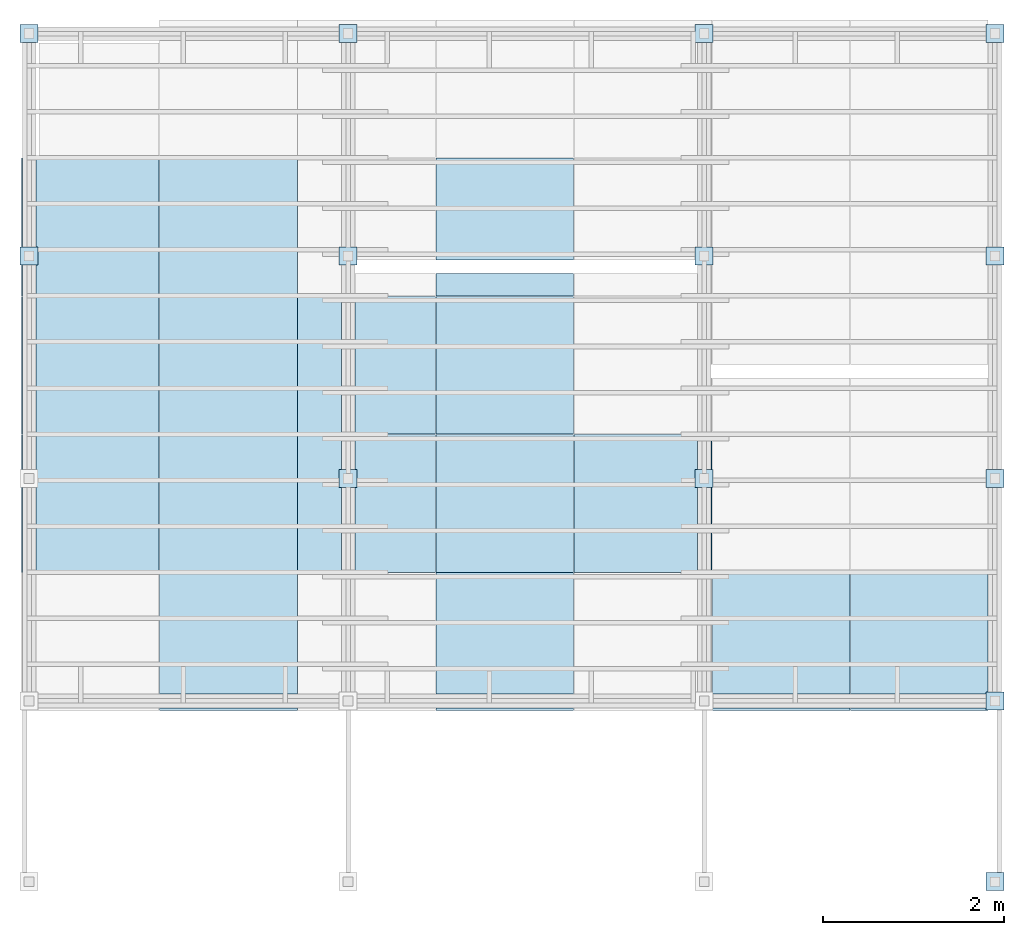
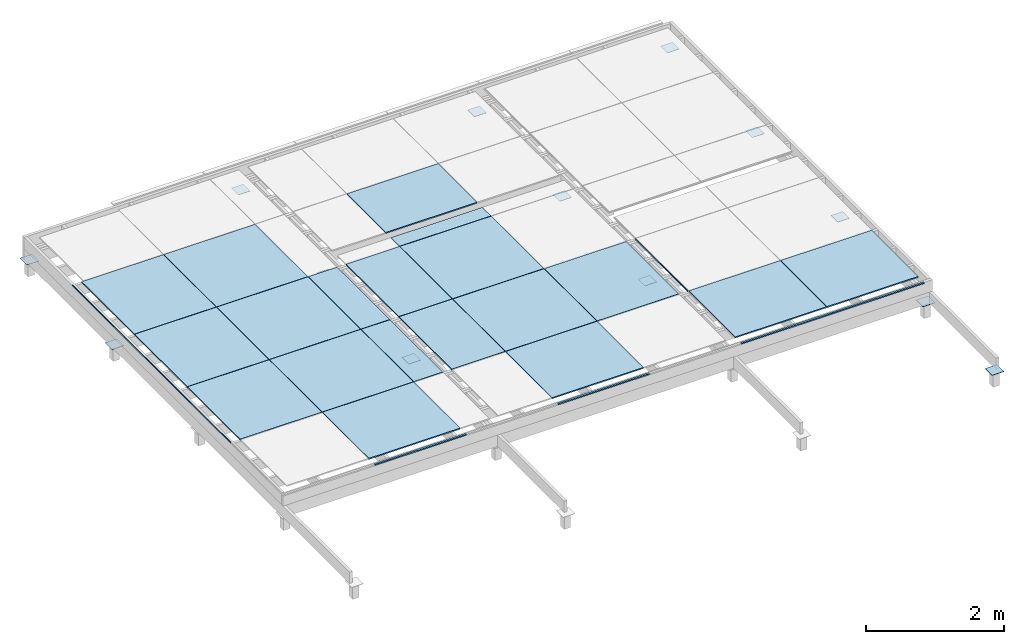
# One storey, part 3 of 5: 29 slabs, 13 elements without a shape of their own.
"""IFC4 building model written with IfcOpenShell, lengths in millimetres."""

from ifc_helpers import new_model, si_unit, derived_unit, frame, origin_with_axes, place, context, subcontext, project, spatial, polygons, source, transform, mapped, material, constituent, constituent_set, element, aggregate, save


model = new_model("IFC4")

# Units and contexts
model_context = context("Model", 3, precision=1e-06, world=origin_with_axes())
body_context = subcontext(model_context, "Body", "Model", "MODEL_VIEW")
ifc_project = project(units=[si_unit("LENGTHUNIT", "METRE", prefix="MILLI"), si_unit("AREAUNIT", "SQUARE_METRE"), si_unit("VOLUMEUNIT", "CUBIC_METRE"), si_unit("MASSUNIT", "GRAM", prefix="KILO"), si_unit("ELECTRICVOLTAGEUNIT", "VOLT", prefix="KILO"), si_unit("THERMODYNAMICTEMPERATUREUNIT", "DEGREE_CELSIUS"), si_unit("PRESSUREUNIT", "PASCAL", prefix="MEGA"), si_unit("PLANEANGLEUNIT", "RADIAN"), derived_unit("THERMALCONDUCTANCEUNIT", [(si_unit("POWERUNIT", "WATT"), 1), (si_unit("LENGTHUNIT", "METRE"), -1), (si_unit("THERMODYNAMICTEMPERATUREUNIT", "KELVIN"), -1)]), derived_unit("MASSDENSITYUNIT", [(si_unit("MASSUNIT", "GRAM", prefix="KILO"), 1), (si_unit("VOLUMEUNIT", "CUBIC_METRE"), -1)])], contexts=[model_context])

# Site, building, storey
site_placement = place(None, origin_with_axes())
site = spatial("IfcSite", under=ifc_project, at=site_placement, CompositionType="ELEMENT")
building_placement = place(site_placement, origin_with_axes())
building = spatial("IfcBuilding", under=site, at=building_placement, CompositionType="ELEMENT")
storey_placement = place(building_placement, origin_with_axes())
storey = spatial("IfcBuildingStorey", under=building, at=storey_placement, Name="Ниже 0.00", CompositionType="ELEMENT", Elevation=0.0)

# Slabs
ifc_material_1 = material(Name="фанера)")
ifc_constituent_1 = constituent(ifc_material_1, Name="Слой 1 - фанера): 21,00 мм")
ifc_constituent_set_1 = constituent_set(constituents=[ifc_constituent_1], Name="Фанера")
shared_shape_1 = source(origin_with_axes(), body_context, "Body", "Tessellation", [
    polygons([(10695.000000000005, 149.99999999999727, 0.0), (9170.000000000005, 149.99999999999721, 0.0), (9170.000000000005, 1494.9999999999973, 0.0), (10695.000000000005, 1494.9999999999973, 0.0), (10695.000000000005, 149.99999999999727, 21.0), (9170.000000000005, 149.99999999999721, 21.0), (9170.000000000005, 1494.9999999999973, 21.0), (10695.000000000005, 1494.9999999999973, 21.0)], [[[1, 2, 3, 4]], [[1, 5, 6, 2]], [[2, 6, 7, 3]], [[4, 3, 7, 8]], [[5, 1, 4, 8]], [[6, 5, 8, 7]]], closed=True),
    polygons([(9170.000000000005, -2.791e-12, 0.0), (10695.000000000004, -2.728e-12, 0.0), (10695.000000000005, -30.000000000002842, 0.0), (9170.000000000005, -30.000000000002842, 0.0), (10695.000000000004, -2.728e-12, 21.0), (9170.000000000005, -2.791e-12, 21.0), (10695.000000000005, -30.000000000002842, 21.0), (9170.000000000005, -30.000000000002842, 21.0)], [[[1, 2, 3, 4]], [[5, 2, 1, 6]], [[2, 5, 7, 3]], [[4, 3, 7, 8]], [[6, 1, 4, 8]], [[5, 6, 8, 7]]], closed=True),
])
slab_1_placement = place(storey_placement, frame((9170.000000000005, -30.000000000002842, 0.0), z_axis=(0.0, 0.0, 1.0), x_axis=(1.0, 0.0, 0.0)))
element("IfcSlab", 1, at=slab_1_placement, inside=storey, material=ifc_constituent_set_1, Name="Перекрытие: 21,00 мм", PredefinedType="FLOOR", context=body_context, shape_type="MappedRepresentation", body=[
    mapped(shared_shape_1, transform((-9170.000000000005, 30.000000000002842, 0.0), x_axis=(1.0, 0.0, 0.0), y_axis=(0.0, 1.0, 0.0), z_axis=(0.0, 0.0, 1.0), scale=1.0)),
])
shared_shape_2 = source(origin_with_axes(), body_context, "Body", "Tessellation", [
    polygons([(9165.000000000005, 149.99999999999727, 0.0), (7640.0000000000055, 149.99999999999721, 0.0), (7640.0000000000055, 1494.9999999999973, 0.0), (9165.000000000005, 1494.9999999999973, 0.0), (9165.000000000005, 149.99999999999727, 21.0), (7640.0000000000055, 149.99999999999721, 21.0), (7640.0000000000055, 1494.9999999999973, 21.0), (9165.000000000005, 1494.9999999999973, 21.0)], [[[1, 2, 3, 4]], [[1, 5, 6, 2]], [[2, 6, 7, 3]], [[4, 3, 7, 8]], [[5, 1, 4, 8]], [[6, 5, 8, 7]]], closed=True),
    polygons([(7640.0000000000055, -2.791e-12, 0.0), (9165.000000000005, -2.728e-12, 0.0), (9165.000000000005, -30.000000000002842, 0.0), (7640.0000000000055, -30.000000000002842, 0.0), (9165.000000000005, -2.728e-12, 21.0), (7640.0000000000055, -2.791e-12, 21.0), (9165.000000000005, -30.000000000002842, 21.0), (7640.0000000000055, -30.000000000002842, 21.0)], [[[1, 2, 3, 4]], [[5, 2, 1, 6]], [[2, 5, 7, 3]], [[4, 3, 7, 8]], [[6, 1, 4, 8]], [[5, 6, 8, 7]]], closed=True),
])
slab_2_placement = place(storey_placement, frame((7640.0000000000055, -30.000000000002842, 0.0), z_axis=(0.0, 0.0, 1.0), x_axis=(1.0, 0.0, 0.0)))
element("IfcSlab", 2, at=slab_2_placement, inside=storey, material=ifc_constituent_set_1, Name="Перекрытие: 21,00 мм", PredefinedType="FLOOR", context=body_context, shape_type="MappedRepresentation", body=[
    mapped(shared_shape_2, transform((-7640.0000000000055, 30.000000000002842, 0.0), x_axis=(1.0, 0.0, 0.0), y_axis=(0.0, 1.0, 0.0), z_axis=(0.0, 0.0, 1.0), scale=1.0)),
])
shared_shape_3 = source(origin_with_axes(), body_context, "Body", "Tessellation", [
    polygons([(7475.0, 3024.9999999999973, 0.0), (7475.0, 1499.9999999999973, 0.0), (6110.0000000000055, 1499.9999999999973, 0.0), (6110.0000000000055, 3024.9999999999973, 0.0), (7475.0, 1499.9999999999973, 21.0), (7475.0, 3024.9999999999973, 21.0), (6110.0000000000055, 1499.9999999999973, 21.0), (6110.0000000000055, 3024.9999999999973, 21.0)], [[[1, 2, 3, 4]], [[5, 2, 1, 6]], [[2, 5, 7, 3]], [[4, 3, 7, 8]], [[6, 1, 4, 8]], [[5, 6, 8, 7]]], closed=True),
    polygons([(7625.0, 1499.9999999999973, 0.0), (7625.0, 3024.9999999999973, 0.0), (7635.0000000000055, 3024.9999999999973, 0.0), (7635.0000000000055, 1499.9999999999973, 0.0), (7625.0, 1499.9999999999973, 21.0), (7625.0, 3024.9999999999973, 21.0), (7635.0000000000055, 3024.9999999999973, 21.0), (7635.0000000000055, 1499.9999999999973, 21.0)], [[[1, 2, 3, 4]], [[1, 5, 6, 2]], [[2, 6, 7, 3]], [[4, 3, 7, 8]], [[5, 1, 4, 8]], [[6, 5, 8, 7]]], closed=True),
])
slab_3_placement = place(storey_placement, frame((6110.0000000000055, 1499.9999999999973, 0.0), z_axis=(0.0, 0.0, 1.0), x_axis=(1.0, 0.0, 0.0)))
element("IfcSlab", 3, at=slab_3_placement, inside=storey, material=ifc_constituent_set_1, Name="Перекрытие: 21,00 мм", PredefinedType="FLOOR", context=body_context, shape_type="MappedRepresentation", body=[
    mapped(shared_shape_3, transform((-6110.0000000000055, -1499.9999999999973, 0.0), x_axis=(1.0, 0.0, 0.0), y_axis=(0.0, 1.0, 0.0), z_axis=(0.0, 0.0, 1.0), scale=1.0)),
])
shared_shape_4 = source(origin_with_axes(), body_context, "Body", "Tessellation", [
    polygons([(6105.0000000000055, 149.99999999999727, 0.0), (4580.0000000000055, 149.99999999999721, 0.0), (4580.0000000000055, 1494.9999999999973, 0.0), (6105.0000000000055, 1494.9999999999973, 0.0), (6105.0000000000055, 149.99999999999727, 21.0), (4580.0000000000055, 149.99999999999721, 21.0), (4580.0000000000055, 1494.9999999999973, 21.0), (6105.0000000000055, 1494.9999999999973, 21.0)], [[[1, 2, 3, 4]], [[1, 5, 6, 2]], [[2, 6, 7, 3]], [[4, 3, 7, 8]], [[5, 1, 4, 8]], [[6, 5, 8, 7]]], closed=True),
    polygons([(4580.0000000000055, -2.791e-12, 0.0), (6105.0000000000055, -2.728e-12, 0.0), (6105.0000000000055, -30.000000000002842, 0.0), (4580.0000000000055, -30.000000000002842, 0.0), (6105.0000000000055, -2.728e-12, 21.0), (4580.0000000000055, -2.791e-12, 21.0), (6105.0000000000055, -30.000000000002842, 21.0), (4580.0000000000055, -30.000000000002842, 21.0)], [[[1, 2, 3, 4]], [[5, 2, 1, 6]], [[2, 5, 7, 3]], [[4, 3, 7, 8]], [[6, 1, 4, 8]], [[5, 6, 8, 7]]], closed=True),
])
slab_4_placement = place(storey_placement, frame((4580.0000000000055, -30.000000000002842, 0.0), z_axis=(0.0, 0.0, 1.0), x_axis=(1.0, 0.0, 0.0)))
element("IfcSlab", 4, at=slab_4_placement, inside=storey, material=ifc_constituent_set_1, Name="Перекрытие: 21,00 мм", PredefinedType="FLOOR", context=body_context, shape_type="MappedRepresentation", body=[
    mapped(shared_shape_4, transform((-4580.0000000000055, 30.000000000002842, 0.0), x_axis=(1.0, 0.0, 0.0), y_axis=(0.0, 1.0, 0.0), z_axis=(0.0, 0.0, 1.0), scale=1.0)),
])
shared_shape_5 = source(origin_with_axes(), body_context, "Body", "Tessellation", [
    polygons([(4580.0000000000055, 1499.9999999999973, 0.0), (4580.0000000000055, 3024.9999999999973, 0.0), (6105.0000000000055, 3024.9999999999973, 0.0), (6105.0000000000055, 1499.9999999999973, 0.0), (4580.0000000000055, 1499.9999999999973, 21.0), (4580.0000000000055, 3024.9999999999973, 21.0), (6105.0000000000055, 3024.9999999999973, 21.0), (6105.0000000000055, 1499.9999999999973, 21.0)], [[[1, 2, 3, 4]], [[2, 1, 5, 6]], [[3, 2, 6, 7]], [[4, 3, 7, 8]], [[1, 4, 8, 5]], [[5, 8, 7, 6]]], closed=True),
])
slab_5_placement = place(storey_placement, frame((4580.0000000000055, 1499.9999999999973, 0.0), z_axis=(0.0, 0.0, 1.0), x_axis=(1.0, 0.0, 0.0)))
element("IfcSlab", 5, at=slab_5_placement, inside=storey, material=ifc_constituent_set_1, Name="Перекрытие: 21,00 мм", PredefinedType="FLOOR", context=body_context, shape_type="MappedRepresentation", body=[
    mapped(shared_shape_5, transform((-4580.0000000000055, -1499.9999999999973, 0.0), x_axis=(1.0, 0.0, 0.0), y_axis=(0.0, 1.0, 0.0), z_axis=(0.0, 0.0, 1.0), scale=1.0)),
])
shared_shape_6 = source(origin_with_axes(), body_context, "Body", "Tessellation", [
    polygons([(4580.0000000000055, 3029.9999999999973, 0.0), (4580.0000000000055, 4554.999999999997, 0.0), (6105.0000000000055, 4554.999999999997, 0.0), (6105.0000000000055, 3029.9999999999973, 0.0), (4580.0000000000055, 3029.9999999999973, 21.0), (4580.0000000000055, 4554.999999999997, 21.0), (6105.0000000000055, 4554.999999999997, 21.0), (6105.0000000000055, 3029.9999999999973, 21.0)], [[[1, 2, 3, 4]], [[2, 1, 5, 6]], [[3, 2, 6, 7]], [[4, 3, 7, 8]], [[1, 4, 8, 5]], [[5, 8, 7, 6]]], closed=True),
])
slab_6_placement = place(storey_placement, frame((4580.0000000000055, 3029.9999999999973, 0.0), z_axis=(0.0, 0.0, 1.0), x_axis=(1.0, 0.0, 0.0)))
element("IfcSlab", 6, at=slab_6_placement, inside=storey, material=ifc_constituent_set_1, Name="Перекрытие: 21,00 мм", PredefinedType="FLOOR", context=body_context, shape_type="MappedRepresentation", body=[
    mapped(shared_shape_6, transform((-4580.0000000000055, -3029.9999999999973, 0.0), x_axis=(1.0, 0.0, 0.0), y_axis=(0.0, 1.0, 0.0), z_axis=(0.0, 0.0, 1.0), scale=1.0)),
])
shared_shape_7 = source(origin_with_axes(), body_context, "Body", "Tessellation", [
    polygons([(6105.0000000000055, 4959.999999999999, 0.0), (4580.0000000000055, 4959.999999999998, 0.0), (4580.0000000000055, 6084.999999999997, 0.0), (6105.0000000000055, 6084.999999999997, 0.0), (6105.0000000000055, 4959.999999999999, 21.0), (4580.0000000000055, 4959.999999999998, 21.0), (4580.0000000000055, 6084.999999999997, 21.0), (6105.0000000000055, 6084.999999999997, 21.0)], [[[1, 2, 3, 4]], [[1, 5, 6, 2]], [[2, 6, 7, 3]], [[4, 3, 7, 8]], [[5, 1, 4, 8]], [[6, 5, 8, 7]]], closed=True),
    polygons([(4580.0000000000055, 4809.999999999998, 0.0), (6105.0000000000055, 4809.999999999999, 0.0), (6105.0000000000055, 4559.999999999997, 0.0), (4580.0000000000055, 4559.999999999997, 0.0), (6105.0000000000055, 4809.999999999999, 21.0), (4580.0000000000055, 4809.999999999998, 21.0), (6105.0000000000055, 4559.999999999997, 21.0), (4580.0000000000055, 4559.999999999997, 21.0)], [[[1, 2, 3, 4]], [[5, 2, 1, 6]], [[2, 5, 7, 3]], [[4, 3, 7, 8]], [[6, 1, 4, 8]], [[5, 6, 8, 7]]], closed=True),
])
slab_7_placement = place(storey_placement, frame((4580.0000000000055, 4559.999999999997, 0.0), z_axis=(0.0, 0.0, 1.0), x_axis=(1.0, 0.0, 0.0)))
element("IfcSlab", 7, at=slab_7_placement, inside=storey, material=ifc_constituent_set_1, Name="Перекрытие: 21,00 мм", PredefinedType="FLOOR", context=body_context, shape_type="MappedRepresentation", body=[
    mapped(shared_shape_7, transform((-4580.0000000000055, -4559.999999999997, 0.0), x_axis=(1.0, 0.0, 0.0), y_axis=(0.0, 1.0, 0.0), z_axis=(0.0, 0.0, 1.0), scale=1.0)),
])
shared_shape_8 = source(origin_with_axes(), body_context, "Body", "Tessellation", [
    polygons([(3682.5, 1499.9999999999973, 0.0), (3682.5, 3024.9999999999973, 0.0), (4575.0000000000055, 3024.9999999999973, 0.0), (4575.0000000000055, 1499.9999999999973, 0.0), (3682.5, 1499.9999999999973, 21.0), (3682.5, 3024.9999999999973, 21.0), (4575.0000000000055, 3024.9999999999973, 21.0), (4575.0000000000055, 1499.9999999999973, 21.0)], [[[1, 2, 3, 4]], [[1, 5, 6, 2]], [[2, 6, 7, 3]], [[4, 3, 7, 8]], [[5, 1, 4, 8]], [[6, 5, 8, 7]]], closed=True),
    polygons([(3532.5, 3024.9999999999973, 0.0), (3532.5, 1499.9999999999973, 0.0), (3050.0000000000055, 1499.9999999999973, 0.0), (3050.0000000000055, 3024.9999999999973, 0.0), (3532.5, 1499.9999999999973, 21.0), (3532.5, 3024.9999999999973, 21.0), (3050.0000000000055, 1499.9999999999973, 21.0), (3050.0000000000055, 3024.9999999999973, 21.0)], [[[1, 2, 3, 4]], [[5, 2, 1, 6]], [[2, 5, 7, 3]], [[4, 3, 7, 8]], [[6, 1, 4, 8]], [[5, 6, 8, 7]]], closed=True),
])
slab_8_placement = place(storey_placement, frame((3050.0000000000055, 1499.9999999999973, 0.0), z_axis=(0.0, 0.0, 1.0), x_axis=(1.0, 0.0, 0.0)))
element("IfcSlab", 8, at=slab_8_placement, inside=storey, material=ifc_constituent_set_1, Name="Перекрытие: 21,00 мм", PredefinedType="FLOOR", context=body_context, shape_type="MappedRepresentation", body=[
    mapped(shared_shape_8, transform((-3050.0000000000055, -1499.9999999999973, 0.0), x_axis=(1.0, 0.0, 0.0), y_axis=(0.0, 1.0, 0.0), z_axis=(0.0, 0.0, 1.0), scale=1.0)),
])
shared_shape_9 = source(origin_with_axes(), body_context, "Body", "Tessellation", [
    polygons([(3682.5, 3029.9999999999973, 0.0), (3682.5, 4554.999999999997, 0.0), (4575.0000000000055, 4554.999999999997, 0.0), (4575.0000000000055, 3029.9999999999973, 0.0), (3682.5, 3029.9999999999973, 21.0), (3682.5, 4554.999999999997, 21.0), (4575.0000000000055, 4554.999999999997, 21.0), (4575.0000000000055, 3029.9999999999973, 21.0)], [[[1, 2, 3, 4]], [[1, 5, 6, 2]], [[2, 6, 7, 3]], [[4, 3, 7, 8]], [[5, 1, 4, 8]], [[6, 5, 8, 7]]], closed=True),
    polygons([(3532.5, 4554.999999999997, 0.0), (3532.5, 3029.9999999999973, 0.0), (3050.0000000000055, 3029.9999999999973, 0.0), (3050.0000000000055, 4554.999999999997, 0.0), (3532.5, 3029.9999999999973, 21.0), (3532.5, 4554.999999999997, 21.0), (3050.0000000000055, 3029.9999999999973, 21.0), (3050.0000000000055, 4554.999999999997, 21.0)], [[[1, 2, 3, 4]], [[5, 2, 1, 6]], [[2, 5, 7, 3]], [[4, 3, 7, 8]], [[6, 1, 4, 8]], [[5, 6, 8, 7]]], closed=True),
])
slab_9_placement = place(storey_placement, frame((3050.0000000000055, 3029.9999999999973, 0.0), z_axis=(0.0, 0.0, 1.0), x_axis=(1.0, 0.0, 0.0)))
element("IfcSlab", 9, at=slab_9_placement, inside=storey, material=ifc_constituent_set_1, Name="Перекрытие: 21,00 мм", PredefinedType="FLOOR", context=body_context, shape_type="MappedRepresentation", body=[
    mapped(shared_shape_9, transform((-3050.0000000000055, -3029.9999999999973, 0.0), x_axis=(1.0, 0.0, 0.0), y_axis=(0.0, 1.0, 0.0), z_axis=(0.0, 0.0, 1.0), scale=1.0)),
])
shared_shape_10 = source(origin_with_axes(), body_context, "Body", "Tessellation", [
    polygons([(3045.0000000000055, 150.0, 0.0), (1520.0000000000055, 150.0000000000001, 0.0), (1520.0000000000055, 1494.9999999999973, 0.0), (3045.0000000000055, 1494.9999999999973, 0.0), (3045.0000000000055, 150.0, 21.0), (1520.0000000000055, 149.9999999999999, 21.0), (1520.0000000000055, 1494.9999999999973, 21.0), (3045.0000000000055, 1494.9999999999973, 21.0)], [[[1, 2, 3, 4]], [[1, 5, 6, 2]], [[2, 6, 7, 3]], [[4, 3, 7, 8]], [[5, 1, 4, 8]], [[6, 5, 8, 7]]], closed=True),
    polygons([(1520.0000000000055, -8.2e-14, 0.0), (3045.0000000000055, 7e-15, 0.0), (3045.0000000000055, -30.000000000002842, 0.0), (1520.0000000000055, -30.000000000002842, 0.0), (3045.0000000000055, 4e-15, 21.0), (1520.0000000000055, 1.17e-13, 21.0), (3045.0000000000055, -30.000000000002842, 21.0), (1520.0000000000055, -30.000000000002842, 21.0)], [[[1, 2, 3, 4]], [[5, 2, 1, 6]], [[2, 5, 7, 3]], [[4, 3, 7, 8]], [[6, 1, 4, 8]], [[5, 6, 8, 7]]], closed=True),
])
slab_10_placement = place(storey_placement, frame((1520.0000000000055, -30.000000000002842, 0.0), z_axis=(0.0, 0.0, 1.0), x_axis=(1.0, 0.0, 0.0)))
element("IfcSlab", 10, at=slab_10_placement, inside=storey, material=ifc_constituent_set_1, Name="Перекрытие: 21,00 мм", PredefinedType="FLOOR", context=body_context, shape_type="MappedRepresentation", body=[
    mapped(shared_shape_10, transform((-1520.0000000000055, 30.000000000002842, 0.0), x_axis=(1.0, 0.0, 0.0), y_axis=(0.0, 1.0, 0.0), z_axis=(0.0, 0.0, 1.0), scale=1.0)),
])
shared_shape_11 = source(origin_with_axes(), body_context, "Body", "Tessellation", [
    polygons([(1520.0000000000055, 1499.9999999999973, 0.0), (1520.0000000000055, 3024.9999999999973, 0.0), (3045.0000000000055, 3024.9999999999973, 0.0), (3045.0000000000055, 1499.9999999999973, 0.0), (1520.0000000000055, 1499.9999999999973, 21.0), (1520.0000000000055, 3024.9999999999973, 21.0), (3045.0000000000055, 3024.9999999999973, 21.0), (3045.0000000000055, 1499.9999999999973, 21.0)], [[[1, 2, 3, 4]], [[2, 1, 5, 6]], [[3, 2, 6, 7]], [[4, 3, 7, 8]], [[1, 4, 8, 5]], [[5, 8, 7, 6]]], closed=True),
])
slab_11_placement = place(storey_placement, frame((1520.0000000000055, 1499.9999999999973, 0.0), z_axis=(0.0, 0.0, 1.0), x_axis=(1.0, 0.0, 0.0)))
element("IfcSlab", 11, at=slab_11_placement, inside=storey, material=ifc_constituent_set_1, Name="Перекрытие: 21,00 мм", PredefinedType="FLOOR", context=body_context, shape_type="MappedRepresentation", body=[
    mapped(shared_shape_11, transform((-1520.0000000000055, -1499.9999999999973, 0.0), x_axis=(1.0, 0.0, 0.0), y_axis=(0.0, 1.0, 0.0), z_axis=(0.0, 0.0, 1.0), scale=1.0)),
])
shared_shape_12 = source(origin_with_axes(), body_context, "Body", "Tessellation", [
    polygons([(1520.0000000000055, 3029.9999999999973, 0.0), (1520.0000000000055, 4554.999999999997, 0.0), (3045.0000000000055, 4554.999999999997, 0.0), (3045.0000000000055, 3029.9999999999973, 0.0), (1520.0000000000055, 3029.9999999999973, 21.0), (1520.0000000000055, 4554.999999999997, 21.0), (3045.0000000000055, 4554.999999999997, 21.0), (3045.0000000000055, 3029.9999999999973, 21.0)], [[[1, 2, 3, 4]], [[2, 1, 5, 6]], [[3, 2, 6, 7]], [[4, 3, 7, 8]], [[1, 4, 8, 5]], [[5, 8, 7, 6]]], closed=True),
])
slab_12_placement = place(storey_placement, frame((1520.0000000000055, 3029.9999999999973, 0.0), z_axis=(0.0, 0.0, 1.0), x_axis=(1.0, 0.0, 0.0)))
element("IfcSlab", 12, at=slab_12_placement, inside=storey, material=ifc_constituent_set_1, Name="Перекрытие: 21,00 мм", PredefinedType="FLOOR", context=body_context, shape_type="MappedRepresentation", body=[
    mapped(shared_shape_12, transform((-1520.0000000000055, -3029.9999999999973, 0.0), x_axis=(1.0, 0.0, 0.0), y_axis=(0.0, 1.0, 0.0), z_axis=(0.0, 0.0, 1.0), scale=1.0)),
])
shared_shape_13 = source(origin_with_axes(), body_context, "Body", "Tessellation", [
    polygons([(1520.0000000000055, 4559.999999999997, 0.0), (1520.0000000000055, 6084.999999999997, 0.0), (3045.0000000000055, 6084.999999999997, 0.0), (3045.0000000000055, 4559.999999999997, 0.0), (1520.0000000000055, 4559.999999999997, 21.0), (1520.0000000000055, 6084.999999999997, 21.0), (3045.0000000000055, 6084.999999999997, 21.0), (3045.0000000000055, 4559.999999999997, 21.0)], [[[1, 2, 3, 4]], [[2, 1, 5, 6]], [[3, 2, 6, 7]], [[4, 3, 7, 8]], [[1, 4, 8, 5]], [[5, 8, 7, 6]]], closed=True),
])
slab_13_placement = place(storey_placement, frame((1520.0000000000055, 4559.999999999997, 0.0), z_axis=(0.0, 0.0, 1.0), x_axis=(1.0, 0.0, 0.0)))
element("IfcSlab", 13, at=slab_13_placement, inside=storey, material=ifc_constituent_set_1, Name="Перекрытие: 21,00 мм", PredefinedType="FLOOR", context=body_context, shape_type="MappedRepresentation", body=[
    mapped(shared_shape_13, transform((-1520.0000000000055, -4559.999999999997, 0.0), x_axis=(1.0, 0.0, 0.0), y_axis=(0.0, 1.0, 0.0), z_axis=(0.0, 0.0, 1.0), scale=1.0)),
])
shared_shape_14 = source(origin_with_axes(), body_context, "Body", "Tessellation", [
    polygons([(150.0, 1499.9999999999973, 0.0), (149.99999999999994, 3024.9999999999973, 0.0), (1515.0000000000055, 3024.9999999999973, 0.0), (1515.0000000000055, 1499.9999999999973, 0.0), (150.0, 1499.9999999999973, 21.0), (149.99999999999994, 3024.9999999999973, 21.0), (1515.0000000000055, 3024.9999999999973, 21.0), (1515.0000000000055, 1499.9999999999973, 21.0)], [[[1, 2, 3, 4]], [[1, 5, 6, 2]], [[2, 6, 7, 3]], [[4, 3, 7, 8]], [[5, 1, 4, 8]], [[6, 5, 8, 7]]], closed=True),
    polygons([(-4.3e-14, 3024.9999999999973, 0.0), (-1e-15, 1499.9999999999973, 0.0), (-9.999999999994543, 1499.9999999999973, 0.0), (-9.999999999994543, 3024.9999999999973, 0.0), (-1e-15, 1499.9999999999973, 21.0), (-4.3e-14, 3024.9999999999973, 21.0), (-9.999999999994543, 1499.9999999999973, 21.0), (-9.999999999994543, 3024.9999999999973, 21.0)], [[[1, 2, 3, 4]], [[5, 2, 1, 6]], [[2, 5, 7, 3]], [[4, 3, 7, 8]], [[6, 1, 4, 8]], [[5, 6, 8, 7]]], closed=True),
])
slab_14_placement = place(storey_placement, frame((-9.999999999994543, 1499.9999999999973, 0.0), z_axis=(0.0, 0.0, 1.0), x_axis=(1.0, 0.0, 0.0)))
element("IfcSlab", 14, at=slab_14_placement, inside=storey, material=ifc_constituent_set_1, Name="Перекрытие: 21,00 мм", PredefinedType="FLOOR", context=body_context, shape_type="MappedRepresentation", body=[
    mapped(shared_shape_14, transform((9.999999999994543, -1499.9999999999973, 0.0), x_axis=(1.0, 0.0, 0.0), y_axis=(0.0, 1.0, 0.0), z_axis=(0.0, 0.0, 1.0), scale=1.0)),
])
shared_shape_15 = source(origin_with_axes(), body_context, "Body", "Tessellation", [
    polygons([(150.0, 3029.9999999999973, 0.0), (149.99999999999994, 4554.999999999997, 0.0), (1515.0000000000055, 4554.999999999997, 0.0), (1515.0000000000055, 3029.9999999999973, 0.0), (150.0, 3029.9999999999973, 21.0), (149.99999999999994, 4554.999999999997, 21.0), (1515.0000000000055, 4554.999999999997, 21.0), (1515.0000000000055, 3029.9999999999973, 21.0)], [[[1, 2, 3, 4]], [[1, 5, 6, 2]], [[2, 6, 7, 3]], [[4, 3, 7, 8]], [[5, 1, 4, 8]], [[6, 5, 8, 7]]], closed=True),
    polygons([(-4.3e-14, 4554.999999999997, 0.0), (-1e-15, 3029.9999999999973, 0.0), (-9.999999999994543, 3029.9999999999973, 0.0), (-9.999999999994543, 4554.999999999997, 0.0), (-1e-15, 3029.9999999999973, 21.0), (-4.3e-14, 4554.999999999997, 21.0), (-9.999999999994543, 3029.9999999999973, 21.0), (-9.999999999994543, 4554.999999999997, 21.0)], [[[1, 2, 3, 4]], [[5, 2, 1, 6]], [[2, 5, 7, 3]], [[4, 3, 7, 8]], [[6, 1, 4, 8]], [[5, 6, 8, 7]]], closed=True),
])
slab_15_placement = place(storey_placement, frame((-9.999999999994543, 3029.9999999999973, 0.0), z_axis=(0.0, 0.0, 1.0), x_axis=(1.0, 0.0, 0.0)))
element("IfcSlab", 15, at=slab_15_placement, inside=storey, material=ifc_constituent_set_1, Name="Перекрытие: 21,00 мм", PredefinedType="FLOOR", context=body_context, shape_type="MappedRepresentation", body=[
    mapped(shared_shape_15, transform((9.999999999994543, -3029.9999999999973, 0.0), x_axis=(1.0, 0.0, 0.0), y_axis=(0.0, 1.0, 0.0), z_axis=(0.0, 0.0, 1.0), scale=1.0)),
])
shared_shape_16 = source(origin_with_axes(), body_context, "Body", "Tessellation", [
    polygons([(150.0, 4559.999999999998, 0.0), (149.99999999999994, 6084.999999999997, 0.0), (1515.0000000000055, 6084.999999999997, 0.0), (1515.0000000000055, 4559.999999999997, 0.0), (150.0, 4559.999999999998, 21.0), (149.99999999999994, 6084.999999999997, 21.0), (1515.0000000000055, 6084.999999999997, 21.0), (1515.0000000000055, 4559.999999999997, 21.0)], [[[1, 2, 3, 4]], [[1, 5, 6, 2]], [[2, 6, 7, 3]], [[4, 3, 7, 8]], [[5, 1, 4, 8]], [[6, 5, 8, 7]]], closed=True),
    polygons([(-4.3e-14, 6084.999999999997, 0.0), (-1e-15, 4559.999999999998, 0.0), (-9.999999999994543, 4559.999999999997, 0.0), (-9.999999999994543, 6084.999999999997, 0.0), (-1e-15, 4559.999999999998, 21.0), (-4.3e-14, 6084.999999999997, 21.0), (-9.999999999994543, 4559.999999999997, 21.0), (-9.999999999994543, 6084.999999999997, 21.0)], [[[1, 2, 3, 4]], [[5, 2, 1, 6]], [[2, 5, 7, 3]], [[4, 3, 7, 8]], [[6, 1, 4, 8]], [[5, 6, 8, 7]]], closed=True),
])
slab_16_placement = place(storey_placement, frame((-9.999999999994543, 4559.999999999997, 0.0), z_axis=(0.0, 0.0, 1.0), x_axis=(1.0, 0.0, 0.0)))
element("IfcSlab", 16, at=slab_16_placement, inside=storey, material=ifc_constituent_set_1, Name="Перекрытие: 21,00 мм", PredefinedType="FLOOR", context=body_context, shape_type="MappedRepresentation", body=[
    mapped(shared_shape_16, transform((9.999999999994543, -4559.999999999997, 0.0), x_axis=(1.0, 0.0, 0.0), y_axis=(0.0, 1.0, 0.0), z_axis=(0.0, 0.0, 1.0), scale=1.0)),
])

# Assembly, slab
assembly_1_placement = place(storey_placement, frame((75.00000000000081, 7465.0, -400.0), z_axis=(0.0, 0.0, 1.0), x_axis=(1.0, 0.0, 0.0)))
assembly_1 = element("IfcElementAssembly", 17, at=assembly_1_placement, inside=storey, Name="Сборка - Свая винтовая 107", PredefinedType="NOTDEFINED")
ifc_material_2 = material(Name="Сталь")
ifc_constituent_2 = constituent(ifc_material_2, Name="Слой 1 - Сталь: 5,00 мм")
ifc_constituent_set_2 = constituent_set(constituents=[ifc_constituent_2], Name="Металл")
shared_shape_17 = source(origin_with_axes(), body_context, "Body", "Tessellation", [
    polygons([(-100.0, -100.0, -5.0), (-100.0, 100.0, -5.0), (100.0, 100.0, -5.0), (100.0, -100.0, -5.0), (-100.0, -100.0, 0.0), (-100.0, 100.0, 0.0), (100.0, 100.0, 0.0), (100.0, -100.0, 0.0)], [[[1, 2, 3, 4]], [[2, 1, 5, 6]], [[3, 2, 6, 7]], [[4, 3, 7, 8]], [[1, 4, 8, 5]], [[5, 8, 7, 6]]], closed=True),
])
slab_17_placement = place(assembly_1_placement, frame((-100.0, -100.0, -5.0), z_axis=(0.0, 0.0, 1.0), x_axis=(0.0, 1.0, 0.0)))
slab_17 = element("IfcSlab", 18, at=slab_17_placement, material=ifc_constituent_set_2, Name="Перекрытие: 5,00 мм", PredefinedType="FLOOR", context=body_context, shape_type="MappedRepresentation", body=[
    mapped(shared_shape_17, transform((100.0, -100.0, 5.0), x_axis=(0.0, -1.0, 0.0), y_axis=(1.0, 0.0, 0.0), z_axis=(0.0, 0.0, 1.0), scale=1.0)),
])
aggregate(assembly_1, [slab_17])

assembly_2_placement = place(storey_placement, frame((10770.000000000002, 75.00000000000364, -400.0), z_axis=(0.0, 0.0, 1.0), x_axis=(1.0, 0.0, 0.0)))
assembly_2 = element("IfcElementAssembly", 19, at=assembly_2_placement, inside=storey, Name="Сборка - Свая винтовая 107", PredefinedType="NOTDEFINED")
slab_18_placement = place(assembly_2_placement, frame((-100.0, -100.0, -5.0), z_axis=(0.0, 0.0, 1.0), x_axis=(0.0, 1.0, 0.0)))
slab_18 = element("IfcSlab", 20, at=slab_18_placement, material=ifc_constituent_set_2, Name="Перекрытие: 5,00 мм", PredefinedType="FLOOR", context=body_context, shape_type="MappedRepresentation", body=[
    mapped(shared_shape_17, transform((100.0, -100.0, 5.0), x_axis=(0.0, -1.0, 0.0), y_axis=(1.0, 0.0, 0.0), z_axis=(0.0, 0.0, 1.0), scale=1.0)),
])
aggregate(assembly_2, [slab_18])

assembly_3_placement = place(storey_placement, frame((10770.000000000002, 7465.000000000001, -400.0), z_axis=(0.0, 0.0, 1.0), x_axis=(1.0, 0.0, 0.0)))
assembly_3 = element("IfcElementAssembly", 21, at=assembly_3_placement, inside=storey, Name="Сборка - Свая винтовая 107", PredefinedType="NOTDEFINED")
slab_19_placement = place(assembly_3_placement, frame((-100.0, -100.0, -5.0), z_axis=(0.0, 0.0, 1.0), x_axis=(0.0, 1.0, 0.0)))
slab_19 = element("IfcSlab", 22, at=slab_19_placement, material=ifc_constituent_set_2, Name="Перекрытие: 5,00 мм", PredefinedType="FLOOR", context=body_context, shape_type="MappedRepresentation", body=[
    mapped(shared_shape_17, transform((100.0, -100.0, 5.0), x_axis=(0.0, -1.0, 0.0), y_axis=(1.0, 0.0, 0.0), z_axis=(0.0, 0.0, 1.0), scale=1.0)),
])
aggregate(assembly_3, [slab_19])

assembly_4_placement = place(storey_placement, frame((75.00000000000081, 5002.0, -400.0), z_axis=(0.0, 0.0, 1.0), x_axis=(1.0, 0.0, 0.0)))
assembly_4 = element("IfcElementAssembly", 23, at=assembly_4_placement, inside=storey, Name="Сборка - Свая винтовая 107", PredefinedType="NOTDEFINED")
slab_20_placement = place(assembly_4_placement, frame((-100.0, -100.0, -5.0), z_axis=(0.0, 0.0, 1.0), x_axis=(0.0, 1.0, 0.0)))
slab_20 = element("IfcSlab", 24, at=slab_20_placement, material=ifc_constituent_set_2, Name="Перекрытие: 5,00 мм", PredefinedType="FLOOR", context=body_context, shape_type="MappedRepresentation", body=[
    mapped(shared_shape_17, transform((100.0, -100.0, 5.0), x_axis=(0.0, -1.0, 0.0), y_axis=(1.0, 0.0, 0.0), z_axis=(0.0, 0.0, 1.0), scale=1.0)),
])
aggregate(assembly_4, [slab_20])

assembly_5_placement = place(storey_placement, frame((3607.500000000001, 7465.000000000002, -400.0), z_axis=(0.0, 0.0, 1.0), x_axis=(1.0, 0.0, 0.0)))
assembly_5 = element("IfcElementAssembly", 25, at=assembly_5_placement, inside=storey, Name="Сборка - Свая винтовая 107", PredefinedType="NOTDEFINED")
slab_21_placement = place(assembly_5_placement, frame((-100.0, -100.0, -5.0), z_axis=(0.0, 0.0, 1.0), x_axis=(0.0, 1.0, 0.0)))
slab_21 = element("IfcSlab", 26, at=slab_21_placement, material=ifc_constituent_set_2, Name="Перекрытие: 5,00 мм", PredefinedType="FLOOR", context=body_context, shape_type="MappedRepresentation", body=[
    mapped(shared_shape_17, transform((100.0, -100.0, 5.0), x_axis=(0.0, -1.0, 0.0), y_axis=(1.0, 0.0, 0.0), z_axis=(0.0, 0.0, 1.0), scale=1.0)),
])
aggregate(assembly_5, [slab_21])

assembly_6_placement = place(storey_placement, frame((3607.500000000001, 5002.000000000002, -400.0), z_axis=(0.0, 0.0, 1.0), x_axis=(1.0, 0.0, 0.0)))
assembly_6 = element("IfcElementAssembly", 27, at=assembly_6_placement, inside=storey, Name="Сборка - Свая винтовая 107", PredefinedType="NOTDEFINED")
slab_22_placement = place(assembly_6_placement, frame((-100.0, -100.0, -5.0), z_axis=(0.0, 0.0, 1.0), x_axis=(0.0, 1.0, 0.0)))
slab_22 = element("IfcSlab", 28, at=slab_22_placement, material=ifc_constituent_set_2, Name="Перекрытие: 5,00 мм", PredefinedType="FLOOR", context=body_context, shape_type="MappedRepresentation", body=[
    mapped(shared_shape_17, transform((100.0, -100.0, 5.0), x_axis=(0.0, -1.0, 0.0), y_axis=(1.0, 0.0, 0.0), z_axis=(0.0, 0.0, 1.0), scale=1.0)),
])
aggregate(assembly_6, [slab_22])

assembly_7_placement = place(storey_placement, frame((3607.5, 2538.000000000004, -400.0), z_axis=(0.0, 0.0, 1.0), x_axis=(1.0, 0.0, 0.0)))
assembly_7 = element("IfcElementAssembly", 29, at=assembly_7_placement, inside=storey, Name="Сборка - Свая винтовая 107", PredefinedType="NOTDEFINED")
slab_23_placement = place(assembly_7_placement, frame((-100.0, -100.0, -5.0), z_axis=(0.0, 0.0, 1.0), x_axis=(0.0, 1.0, 0.0)))
slab_23 = element("IfcSlab", 30, at=slab_23_placement, material=ifc_constituent_set_2, Name="Перекрытие: 5,00 мм", PredefinedType="FLOOR", context=body_context, shape_type="MappedRepresentation", body=[
    mapped(shared_shape_17, transform((100.0, -100.0, 5.0), x_axis=(0.0, -1.0, 0.0), y_axis=(1.0, 0.0, 0.0), z_axis=(0.0, 0.0, 1.0), scale=1.0)),
])
aggregate(assembly_7, [slab_23])

assembly_8_placement = place(storey_placement, frame((7550.000000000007, 7465.0, -400.0), z_axis=(0.0, 0.0, 1.0), x_axis=(1.0, 0.0, 0.0)))
assembly_8 = element("IfcElementAssembly", 31, at=assembly_8_placement, inside=storey, Name="Сборка - Свая винтовая 107", PredefinedType="NOTDEFINED")
slab_24_placement = place(assembly_8_placement, frame((-100.0, -100.0, -5.0), z_axis=(0.0, 0.0, 1.0), x_axis=(0.0, 1.0, 0.0)))
slab_24 = element("IfcSlab", 32, at=slab_24_placement, material=ifc_constituent_set_2, Name="Перекрытие: 5,00 мм", PredefinedType="FLOOR", context=body_context, shape_type="MappedRepresentation", body=[
    mapped(shared_shape_17, transform((100.0, -100.0, 5.0), x_axis=(0.0, -1.0, 0.0), y_axis=(1.0, 0.0, 0.0), z_axis=(0.0, 0.0, 1.0), scale=1.0)),
])
aggregate(assembly_8, [slab_24])

assembly_9_placement = place(storey_placement, frame((7550.000000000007, 5002.0, -400.0), z_axis=(0.0, 0.0, 1.0), x_axis=(1.0, 0.0, 0.0)))
assembly_9 = element("IfcElementAssembly", 33, at=assembly_9_placement, inside=storey, Name="Сборка - Свая винтовая 107", PredefinedType="NOTDEFINED")
slab_25_placement = place(assembly_9_placement, frame((-100.0, -100.0, -5.0), z_axis=(0.0, 0.0, 1.0), x_axis=(0.0, 1.0, 0.0)))
slab_25 = element("IfcSlab", 34, at=slab_25_placement, material=ifc_constituent_set_2, Name="Перекрытие: 5,00 мм", PredefinedType="FLOOR", context=body_context, shape_type="MappedRepresentation", body=[
    mapped(shared_shape_17, transform((100.0, -100.0, 5.0), x_axis=(0.0, -1.0, 0.0), y_axis=(1.0, 0.0, 0.0), z_axis=(0.0, 0.0, 1.0), scale=1.0)),
])
aggregate(assembly_9, [slab_25])

assembly_10_placement = place(storey_placement, frame((7550.0000000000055, 2538.0000000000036, -400.0), z_axis=(0.0, 0.0, 1.0), x_axis=(1.0, 0.0, 0.0)))
assembly_10 = element("IfcElementAssembly", 35, at=assembly_10_placement, inside=storey, Name="Сборка - Свая винтовая 107", PredefinedType="NOTDEFINED")
slab_26_placement = place(assembly_10_placement, frame((-100.0, -100.0, -5.0), z_axis=(0.0, 0.0, 1.0), x_axis=(0.0, 1.0, 0.0)))
slab_26 = element("IfcSlab", 36, at=slab_26_placement, material=ifc_constituent_set_2, Name="Перекрытие: 5,00 мм", PredefinedType="FLOOR", context=body_context, shape_type="MappedRepresentation", body=[
    mapped(shared_shape_17, transform((100.0, -100.0, 5.0), x_axis=(0.0, -1.0, 0.0), y_axis=(1.0, 0.0, 0.0), z_axis=(0.0, 0.0, 1.0), scale=1.0)),
])
aggregate(assembly_10, [slab_26])

assembly_11_placement = place(storey_placement, frame((10770.000000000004, 5001.999999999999, -400.0), z_axis=(0.0, 0.0, 1.0), x_axis=(1.0, 0.0, 0.0)))
assembly_11 = element("IfcElementAssembly", 37, at=assembly_11_placement, inside=storey, Name="Сборка - Свая винтовая 107", PredefinedType="NOTDEFINED")
slab_27_placement = place(assembly_11_placement, frame((-100.0, -100.0, -5.0), z_axis=(0.0, 0.0, 1.0), x_axis=(0.0, 1.0, 0.0)))
slab_27 = element("IfcSlab", 38, at=slab_27_placement, material=ifc_constituent_set_2, Name="Перекрытие: 5,00 мм", PredefinedType="FLOOR", context=body_context, shape_type="MappedRepresentation", body=[
    mapped(shared_shape_17, transform((100.0, -100.0, 5.0), x_axis=(0.0, -1.0, 0.0), y_axis=(1.0, 0.0, 0.0), z_axis=(0.0, 0.0, 1.0), scale=1.0)),
])
aggregate(assembly_11, [slab_27])

assembly_12_placement = place(storey_placement, frame((10770.000000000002, 2538.000000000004, -400.0), z_axis=(0.0, 0.0, 1.0), x_axis=(1.0, 0.0, 0.0)))
assembly_12 = element("IfcElementAssembly", 39, at=assembly_12_placement, inside=storey, Name="Сборка - Свая винтовая 107", PredefinedType="NOTDEFINED")
slab_28_placement = place(assembly_12_placement, frame((-100.0, -100.0, -5.0), z_axis=(0.0, 0.0, 1.0), x_axis=(0.0, 1.0, 0.0)))
slab_28 = element("IfcSlab", 40, at=slab_28_placement, material=ifc_constituent_set_2, Name="Перекрытие: 5,00 мм", PredefinedType="FLOOR", context=body_context, shape_type="MappedRepresentation", body=[
    mapped(shared_shape_17, transform((100.0, -100.0, 5.0), x_axis=(0.0, -1.0, 0.0), y_axis=(1.0, 0.0, 0.0), z_axis=(0.0, 0.0, 1.0), scale=1.0)),
])
aggregate(assembly_12, [slab_28])

assembly_13_placement = place(storey_placement, frame((10770.000000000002, -1925.0000000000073, -400.0), z_axis=(0.0, 0.0, 1.0), x_axis=(1.0, 0.0, 0.0)))
assembly_13 = element("IfcElementAssembly", 41, at=assembly_13_placement, inside=storey, Name="Сборка - Свая винтовая 107", PredefinedType="NOTDEFINED")
slab_29_placement = place(assembly_13_placement, frame((-100.0, -100.0, -5.0), z_axis=(0.0, 0.0, 1.0), x_axis=(0.0, 1.0, 0.0)))
slab_29 = element("IfcSlab", 42, at=slab_29_placement, material=ifc_constituent_set_2, Name="Перекрытие: 5,00 мм", PredefinedType="FLOOR", context=body_context, shape_type="MappedRepresentation", body=[
    mapped(shared_shape_17, transform((100.0, -100.0, 5.0), x_axis=(0.0, -1.0, 0.0), y_axis=(1.0, 0.0, 0.0), z_axis=(0.0, 0.0, 1.0), scale=1.0)),
])
aggregate(assembly_13, [slab_29])

save(model, "model.ifc")
